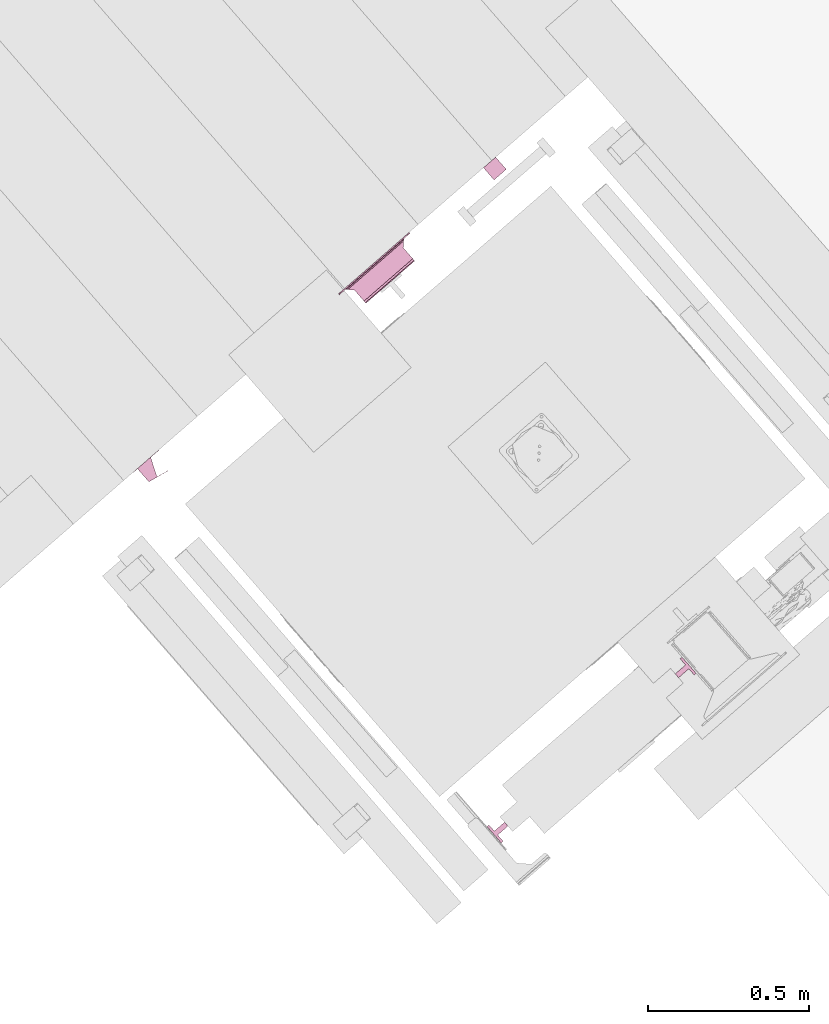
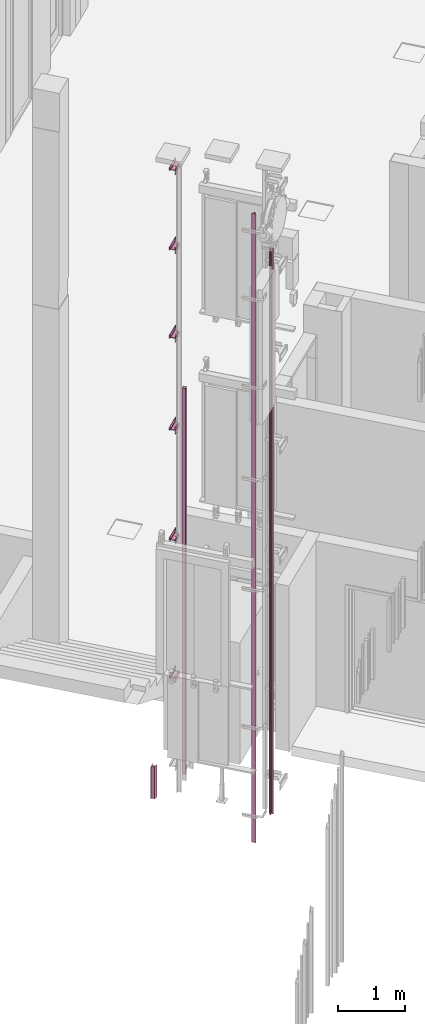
# One storey, part 118 of 124: 10 transport elements.
"""IFC2X3 building model written with IfcOpenShell, lengths in millimetres."""

from ifc_helpers import new_model, entity, si_unit, converted_unit, derived_unit, money_unit, direction, frame, origin_with_axes, place, context, subcontext, project, spatial, faceted_brep, source, transform, mapped, material, type_object, element, save


model = new_model("IFC2X3")

# Units and contexts
model_context = context("Model", 3, precision=1e-05, world=origin_with_axes(), true_north=direction((0.0, 1.0)))
body_context = subcontext(model_context, "Body", "Model", "MODEL_VIEW")
ifc_project = project(units=[si_unit("LENGTHUNIT", "METRE", prefix="MILLI"), si_unit("AREAUNIT", "SQUARE_METRE"), si_unit("VOLUMEUNIT", "CUBIC_METRE"), converted_unit("PLANEANGLEUNIT", "DEGREE", entity("IfcPlaneAngleMeasure", 0.0174532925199), si_unit("PLANEANGLEUNIT", "RADIAN"), dimensions=[0, 0, 0, 0, 0, 0, 0]), si_unit("SOLIDANGLEUNIT", "STERADIAN"), money_unit("EUR"), converted_unit("TIMEUNIT", "Year", entity("IfcTimeMeasure", 31556926.0), si_unit("TIMEUNIT", "SECOND"), dimensions=[0, 0, 1, 0, 0, 0, 0]), si_unit("MASSUNIT", "GRAM", prefix="KILO"), si_unit("THERMODYNAMICTEMPERATUREUNIT", "DEGREE_CELSIUS"), si_unit("LUMINOUSINTENSITYUNIT", "LUMEN"), si_unit("ENERGYUNIT", "JOULE", prefix="MEGA"), derived_unit("THERMALCONDUCTANCEUNIT", [(si_unit("POWERUNIT", "WATT"), 1), (si_unit("LENGTHUNIT", "METRE"), -1), (si_unit("THERMODYNAMICTEMPERATUREUNIT", "KELVIN"), -1)]), derived_unit("SPECIFICHEATCAPACITYUNIT", [(si_unit("ENERGYUNIT", "JOULE"), 1), (si_unit("MASSUNIT", "GRAM", prefix="KILO"), -1), (si_unit("THERMODYNAMICTEMPERATUREUNIT", "KELVIN"), -1)]), derived_unit("MASSDENSITYUNIT", [(si_unit("MASSUNIT", "GRAM", prefix="KILO"), 1), (si_unit("VOLUMEUNIT", "CUBIC_METRE"), -1)])], contexts=[model_context])

# Site, building, storey
site_placement = place(None, origin_with_axes())
site = spatial("IfcSite", under=ifc_project, at=site_placement, Name="Site", CompositionType="ELEMENT")
building_placement = place(site_placement, origin_with_axes())
building = spatial("IfcBuilding", under=site, at=building_placement, Name="Building", CompositionType="ELEMENT")
storey_placement = place(building_placement, frame((0.0, 0.0, -1615.0), z_axis=(0.0, 0.0, 1.0), x_axis=(1.0, 0.0, 0.0)))
storey = spatial("IfcBuildingStorey", under=building, at=storey_placement, Name="0  korrus", CompositionType="ELEMENT", Elevation=-1615.0)

# Transport elements
ifc_material_1 = material(Name="Site specified")
transport_element_type_1 = type_object("IfcTransportElementType", Name="KONE_Shaft_Light:KONE_Shaft_Light", PredefinedType="NOTDEFINED")
transport_element_1_placement = place(storey_placement, frame((145908.783007, 78452.6551463, -480.631399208), z_axis=(0.0, 0.0, 1.0), x_axis=(-0.754709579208, -0.656059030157, 0.0)))
element("IfcTransportElement", 1, at=transport_element_1_placement, inside=storey, type_object=transport_element_type_1, material=ifc_material_1, Name="KONE_Shaft_Light:KONE_Shaft_Light", ObjectType="KONE_Shaft_Light", CapacityByNumber=0.0, CapacityByWeight=0.0, OperationType="ELEVATOR", context=body_context, shape_type="Brep", body=[
    faceted_brep([(74.0915440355, 0.0, 160.631399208), (-33.9084559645, 0.0, 160.631399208), (-33.9084559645, 0.0, -419.368600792), (74.0915440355, 0.0, -419.368600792), (74.0915440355, 1.0, 160.631399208), (54.8915440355, 1.0, 160.631399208), (54.8915440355, 54.4210150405, 160.631399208), (-12.9084559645, 67.6, 160.631399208), (-13.0950953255, 66.6398237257, 160.631399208), (25.748988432, 59.0892987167, 160.631399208), (1.0915440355, 1.0, 160.631399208), (-33.9084559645, 1.0, 160.631399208), (-33.9084559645, 1.0, -419.368600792), (1.0915440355, 1.0, -419.368600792), (25.748988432, 59.0892987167, -419.368600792), (-13.0950953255, 66.6398237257, -419.368600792), (-12.9084559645, 67.6, -419.368600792), (54.8915440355, 54.4210150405, -419.368600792), (54.8915440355, 1.0, -419.368600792), (74.0915440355, 1.0, -419.368600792)], [[[0, 1, 2, 3]], [[0, 4, 5, 6, 7, 8, 9, 10, 11, 1]], [[1, 11, 12, 2]], [[3, 2, 12, 13, 14, 15, 16, 17, 18, 19]], [[4, 0, 3, 19]], [[5, 4, 19, 18]], [[6, 5, 18, 17]], [[7, 6, 17, 16]], [[8, 7, 16, 15]], [[9, 8, 15, 14]], [[10, 9, 14, 13]], [[11, 10, 13, 12]]]),
])
transport_element_type_2 = type_object("IfcTransportElementType", Name="KONE_Wire_Channel:KONE_Wire_Channel", PredefinedType="NOTDEFINED")
transport_element_2_placement = place(storey_placement, frame((146971.695445, 79310.3801852, 5600.0), z_axis=(0.0, 0.0, 1.0), x_axis=(0.754709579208, 0.656059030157, 0.0)))
element("IfcTransportElement", 2, at=transport_element_2_placement, inside=storey, type_object=transport_element_type_2, material=ifc_material_1, Name="KONE_Wire_Channel:KONE_Wire_Channel", ObjectType="KONE_Wire_Channel", CapacityByNumber=0.0, CapacityByWeight=0.0, OperationType="ELEVATOR", context=body_context, shape_type="Brep", body=[
    faceted_brep([(0.0, 0.0, -7000.0), (0.0, 0.0, 0.0), (0.0, 50.0, 0.0), (0.0, 50.0, -7000.0), (50.0, 0.0, -7000.0), (50.0, 0.0, 0.0), (50.0, 50.0, 0.0), (50.0, 50.0, -7000.0)], [[[0, 1, 2, 3]], [[0, 4, 5, 1]], [[1, 5, 6, 2]], [[3, 2, 6, 7]], [[4, 0, 3, 7]], [[5, 4, 7, 6]]]),
])
ifc_material_2 = material(Name="IFC Building Material")
transport_element_type_3 = type_object("IfcTransportElementType", Name="KONE_CWT_guiderail:KONE_CWT_guiderail", PredefinedType="NOTDEFINED")
transport_element_3_placement = place(storey_placement, frame((147575.469684, 77807.963243, -1400.0), z_axis=(0.0, 0.0, 1.0), x_axis=(-0.656059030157, 0.754709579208, 0.0)))
element("IfcTransportElement", 3, at=transport_element_3_placement, inside=storey, type_object=transport_element_type_3, material=ifc_material_2, Name="KONE_CWT_guiderail:KONE_CWT_guiderail", ObjectType="KONE_CWT_guiderail", CapacityByNumber=0.0, CapacityByWeight=0.0, OperationType="ELEVATOR", context=body_context, shape_type="Brep", body=[
    faceted_brep([(-7.94, 50.0, 10255.0), (7.94, 50.0, 10255.0), (7.94, 50.0, 0.0), (-7.94, 50.0, 0.0), (-7.94, 7.9, 10255.0), (-33.3333333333, 7.9, 10255.0), (-33.3333333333, 0.0, 10255.0), (33.3333333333, 0.0, 10255.0), (33.3333333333, 7.9, 10255.0), (7.94, 7.9, 10255.0), (7.94, 7.9, 0.0), (33.3333333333, 7.9, 0.0), (33.3333333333, 0.0, 0.0), (-33.3333333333, 0.0, 0.0), (-33.3333333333, 7.9, 0.0), (-7.94, 7.9, 0.0)], [[[0, 1, 2, 3]], [[0, 4, 5, 6, 7, 8, 9, 1]], [[1, 9, 10, 2]], [[3, 2, 10, 11, 12, 13, 14, 15]], [[4, 0, 3, 15]], [[5, 4, 15, 14]], [[6, 5, 14, 13]], [[7, 6, 13, 12]], [[8, 7, 12, 11]], [[9, 8, 11, 10]]]),
])
transport_element_type_4 = type_object("IfcTransportElementType", Name="KONE_CWT_guiderail:KONE_CWT_guiderail", PredefinedType="NOTDEFINED")
transport_element_4_placement = place(storey_placement, frame((146971.70202, 77283.1160189, -1400.0), z_axis=(0.0, 0.0, 1.0), x_axis=(0.656059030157, -0.754709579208, 0.0)))
element("IfcTransportElement", 4, at=transport_element_4_placement, inside=storey, type_object=transport_element_type_4, material=ifc_material_2, Name="KONE_CWT_guiderail:KONE_CWT_guiderail", ObjectType="KONE_CWT_guiderail", CapacityByNumber=0.0, CapacityByWeight=0.0, OperationType="ELEVATOR", context=body_context, shape_type="Brep", body=[
    faceted_brep([(-7.94, 50.0, 11400.0), (7.94, 50.0, 11400.0), (7.94, 50.0, 0.0), (-7.94, 50.0, 0.0), (-7.94, 7.9, 11400.0), (-33.3333333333, 7.9, 11400.0), (-33.3333333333, 0.0, 11400.0), (33.3333333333, 0.0, 11400.0), (33.3333333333, 7.9, 11400.0), (7.94, 7.9, 11400.0), (7.94, 7.9, 0.0), (33.3333333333, 7.9, 0.0), (33.3333333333, 0.0, 0.0), (-33.3333333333, 0.0, 0.0), (-33.3333333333, 7.9, 0.0), (-7.94, 7.9, 0.0)], [[[0, 1, 2, 3]], [[0, 4, 5, 6, 7, 8, 9, 1]], [[1, 9, 10, 2]], [[3, 2, 10, 11, 12, 13, 14, 15]], [[4, 0, 3, 15]], [[5, 4, 15, 14]], [[6, 5, 14, 13]], [[7, 6, 13, 12]], [[8, 7, 12, 11]], [[9, 8, 11, 10]]]),
])
transport_element_type_5 = type_object("IfcTransportElementType", Name="KONE_Car_Bracket_Top Most_KM927058G01_L50-80:KONE_Car_Bracket_Top Most_KM927058G01_L50-80", PredefinedType="NOTDEFINED")
shared_shape = source(origin_with_axes(), body_context, "Body", "Brep", [
    faceted_brep([(146.595272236, -5.59527223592, 7.52527223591), (146.595272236, -1.59527223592, 7.52527223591), (152.525272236, -1.59527223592, 1.59527223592), (152.525272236, -5.59527223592, 1.59527223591), (140.665272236, -5.59527223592, 1.59527223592), (140.665272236, -1.59527223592, 1.59527223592), (238.595272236, -1.59527223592, 1.59527223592), (54.5952722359, -1.59527223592, 1.59527223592), (48.9384179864, -1.59527223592, 3.93841798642), (46.5952722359, -1.59527223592, 9.59527223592), (46.5952722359, -1.59527223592, 72.5952722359), (94.2197036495, -1.59527223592, 72.5952722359), (141.844135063, -1.59527223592, 72.5952722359), (194.21970289, -1.59527223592, 72.5952722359), (246.595272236, -1.59527223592, 72.5952722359), (246.595272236, -1.59527223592, 9.59527223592), (244.252126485, -1.59527223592, 3.93841798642), (238.595272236, -5.59527223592, 1.59527223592), (54.5952722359, -5.59527223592, 1.59527223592), (244.252126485, -5.59527223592, 3.93841798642), (246.595272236, -5.59527223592, 9.59527223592), (246.595272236, -5.59527223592, 72.5952722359), (196.595272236, -5.59527223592, 72.5952722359), (171.595272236, -5.59527223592, 72.5952722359), (146.595272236, -5.59527223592, 72.5952722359), (96.5952722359, -5.59527223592, 72.5952722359), (46.5952722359, -5.59527223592, 72.5952722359), (46.5952722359, -5.59527223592, 9.59527223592), (48.9384179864, -5.59527223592, 3.93841798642), (46.5952722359, -7.05973832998, 76.1308061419), (46.5952722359, -10.5952722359, 77.5952722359), (46.5952722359, -43.5952722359, 77.5952722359), (46.5952722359, -43.5952722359, 81.5952722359), (46.5952722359, -10.5952722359, 81.5952722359), (46.5952722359, -4.23131120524, 78.9592332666), (122.783062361, -4.33272177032, 79.0590529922), (196.258388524, -4.23131116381, 78.9592332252), (246.595272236, -4.23131120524, 78.9592332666), (246.595272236, -10.5952722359, 81.5952722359), (246.595272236, -43.5952722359, 81.5952722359), (246.595272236, -43.5952722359, 77.5952722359), (246.595272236, -10.5952722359, 77.5952722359), (246.595272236, -7.05973832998, 76.1308061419), (196.595274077, -7.16817136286, 76.2360111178), (168.268825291, -7.34623169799, 76.3957637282), (108.562980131, -7.16462427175, 76.2326689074), (77.6407986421, -6.76068619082, 75.804002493), (85.6337155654, -10.5952722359, 77.5952722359), (124.672159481, -10.5952722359, 77.5952722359), (155.152937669, -10.5952722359, 77.5952722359), (185.633715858, -10.5952722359, 77.5952722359), (207.556828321, -10.5952722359, 77.5952722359), (244.252126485, -49.2521264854, 77.5952722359), (238.595272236, -51.5952722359, 77.5952722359), (152.735272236, -51.5952722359, 77.5952722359), (146.735272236, -45.5952722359, 77.5952722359), (140.735272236, -51.5952722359, 77.5952722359), (54.5952722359, -51.5952722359, 77.5952722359), (48.9384179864, -49.2521264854, 77.5952722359), (48.9384179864, -49.2521264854, 81.5952722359), (194.219703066, -10.5952722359, 81.5952722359), (146.595272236, -10.5952722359, 81.5952722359), (98.9708407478, -10.5952722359, 81.5952722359), (54.5952722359, -51.5952722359, 81.5952722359), (140.735272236, -51.5952722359, 81.5952722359), (146.735272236, -45.5952722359, 81.5952722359), (152.735272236, -51.5952722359, 81.5952722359), (238.595272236, -51.5952722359, 81.5952722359), (244.252126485, -49.2521264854, 81.5952722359), (139.912552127, -7.23042311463, 76.2936219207)], [[[0, 1, 2, 3]], [[4, 5, 1, 0]], [[6, 2, 1, 5, 7, 8, 9, 10, 11, 12, 13, 14, 15, 16]], [[3, 2, 6, 17]], [[18, 4, 0, 3, 17, 19, 20, 21, 22, 23, 24, 25, 26, 27, 28]], [[18, 7, 5, 4]], [[7, 18, 28, 8]], [[28, 27, 9, 8]], [[26, 29, 30, 31, 32, 33, 34, 10, 9, 27]], [[10, 34, 11]], [[35, 12, 11]], [[14, 13, 12, 36]], [[15, 14, 37, 38, 39, 40, 41, 42, 21, 20]], [[20, 19, 16, 15]], [[16, 19, 17, 6]], [[22, 21, 42]], [[23, 22, 43]], [[23, 44, 24]], [[25, 24, 45]], [[25, 46, 26]], [[46, 29, 26]], [[30, 29, 46]], [[31, 30, 47, 48, 49, 50, 51, 41, 40, 52, 53, 54, 55, 56, 57, 58]], [[31, 58, 59, 32]], [[39, 38, 60, 61, 62, 33, 32, 59, 63, 64, 65, 66, 67, 68]], [[34, 33, 62]], [[35, 11, 34]], [[12, 35, 36]], [[36, 37, 14]], [[38, 37, 36]], [[68, 52, 40, 39]], [[42, 41, 51]], [[22, 42, 43]], [[43, 44, 23]], [[69, 24, 44]], [[24, 69, 45]], [[25, 45, 46]], [[46, 47, 30]], [[45, 48, 47]], [[49, 48, 69]], [[49, 44, 50]], [[43, 51, 50]], [[53, 52, 68, 67]], [[66, 54, 53, 67]], [[65, 55, 54, 66]], [[55, 65, 64, 56]], [[63, 57, 56, 64]], [[59, 58, 57, 63]], [[60, 38, 36, 61]], [[35, 62, 61]], [[62, 35, 34]], [[61, 36, 35]], [[51, 43, 42]], [[50, 44, 43]], [[49, 69, 44]], [[48, 45, 69]], [[47, 46, 45]]]),
    faceted_brep([(193.031915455, -77.1650327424, 84.4439921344), (166.844136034, -79.5952722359, 90.5952722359), (115.281700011, -77.3075838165, 84.5998678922), (219.21970396, -79.5952722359, 90.5952722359), (120.407488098, -79.5952722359, 90.5952722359), (73.9708401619, -79.5952722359, 90.5952722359), (146.595272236, -70.5952722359, 81.5952722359), (266.596625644, -78.0785870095, 85.5952722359), (239.595272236, -79.5952722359, 113.598825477), (26.5913722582, -76.9592332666, 84.2313112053), (83.9681334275, -70.5952722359, 81.5952722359), (209.222411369, -70.5952722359, 81.5952722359), (266.596625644, -76.9592332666, 84.2313112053), (268.983493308, -79.2077583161, 87.9827861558), (271.595272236, -79.5952722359, 90.5952722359), (21.5952722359, -79.5952722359, 90.5952722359), (26.5913722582, -78.0785870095, 85.5952722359), (26.5913722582, -75.5952722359, 83.1119574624), (261.597979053, -70.5952722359, 81.5952722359), (31.5925654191, -70.5952722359, 81.5952722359), (46.5952722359, -55.5885033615, 81.5952722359), (46.5952722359, -24.5952722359, 81.5952722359), (48.9384179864, -18.9384179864, 81.5952722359), (54.5952722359, -16.5952722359, 81.5952722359), (81.588825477, -16.5952722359, 81.5952722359), (94.588825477, -29.5952722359, 81.5952722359), (198.601718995, -29.5952722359, 81.5952722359), (211.601718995, -16.5952722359, 81.5952722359), (238.595272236, -16.5952722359, 81.5952722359), (244.252126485, -18.9384179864, 81.5952722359), (246.595272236, -24.5952722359, 81.5952722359), (246.595272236, -55.5885033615, 81.5952722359), (266.596625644, -75.5952722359, 83.1119574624), (266.596625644, -75.5952722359, 85.5952722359), (271.595272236, -75.5952722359, 90.5952722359), (271.595272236, -79.5952722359, 113.598825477), (53.5952722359, -79.5952722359, 113.598825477), (24.2057778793, -79.2077583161, 87.9827861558), (26.5888256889, -75.5952722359, 85.5952722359), (264.209757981, -73.2077583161, 81.9827861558), (28.9795132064, -73.2077583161, 81.9827861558), (31.5925654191, -70.5952722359, 85.5952722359), (46.5952722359, -55.5885033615, 85.5952722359), (46.5952722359, -24.5952722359, 85.5952722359), (48.9384179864, -18.9384179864, 85.5952722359), (54.5952722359, -16.5952722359, 85.5952722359), (81.588825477, -16.5952722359, 85.5952722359), (94.588825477, -29.5952722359, 85.5952722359), (198.601718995, -29.5952722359, 85.5952722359), (211.601718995, -16.5952722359, 85.5952722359), (238.595272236, -16.5952722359, 85.5952722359), (244.252126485, -18.9384179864, 85.5952722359), (246.595272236, -24.5952722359, 85.5952722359), (246.595272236, -55.5885033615, 85.5952722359), (261.597979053, -70.5952722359, 85.5952722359), (265.132555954, -74.1308061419, 87.05973833), (266.596625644, -75.5952722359, 90.5952722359), (283.595272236, -75.5952722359, 90.5952722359), (283.595272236, -79.5952722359, 90.5952722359), (271.595272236, -75.5952722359, 113.598825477), (239.595272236, -75.5952722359, 113.598825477), (21.5952722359, -79.5952722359, 113.598825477), (233.533094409, -79.5952722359, 117.098825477), (21.5952722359, -75.5952722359, 90.5952722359), (68.5183858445, -70.5952722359, 85.5952722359), (105.44420598, -70.5952722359, 85.5952722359), (144.482649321, -70.5952722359, 85.5952722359), (183.521092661, -70.5952722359, 85.5952722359), (222.559536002, -70.5952722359, 85.5952722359), (227.558182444, -75.5952722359, 90.5952722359), (289.252126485, -75.5952722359, 92.9384179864), (289.252126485, -79.5952722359, 92.9384179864), (291.595272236, -79.5952722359, 98.5952722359), (277.657450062, -79.5952722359, 117.098825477), (277.657450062, -75.5952722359, 117.098825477), (233.533094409, -75.5952722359, 117.098825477), (9.59527223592, -79.5952722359, 90.595272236), (53.5952722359, -75.5952722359, 113.598825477), (21.5952722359, -75.5952722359, 113.598825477), (59.6574500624, -79.5952722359, 117.098825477), (9.59527223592, -75.5952722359, 90.595272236), (28.0579885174, -74.1308061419, 87.05973833), (76.1134774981, -74.1768855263, 87.1064262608), (130.371296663, -74.1224900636, 87.0514417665), (161.595438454, -74.0699729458, 86.9999342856), (217.077061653, -74.2010396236, 87.1313955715), (59.6574500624, -75.5952722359, 117.098825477), (291.595272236, -75.5952722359, 98.5952722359), (277.657450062, -79.5952722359, 124.098825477), (277.657450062, -75.5952722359, 124.098825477), (233.533094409, -79.5952722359, 124.098825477), (233.533094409, -75.5952722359, 124.098825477), (1.59527223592, -79.5952722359, 98.595272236), (26.5939188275, -75.5952722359, 90.5952722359), (15.5330944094, -79.5952722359, 117.098825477), (15.5330944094, -75.5952722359, 117.098825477), (3.93841798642, -75.5952722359, 92.9384179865), (3.93841798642, -79.5952722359, 92.9384179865), (103.281001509, -74.5050304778, 87.478576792), (189.264421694, -74.4223954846, 87.3776445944), (206.595949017, -75.5952722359, 90.5952722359), (291.595272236, -75.5952722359, 142.595272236), (291.595272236, -79.5952722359, 142.595272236), (271.595272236, -79.5952722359, 127.598825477), (271.595272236, -75.5952722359, 127.598825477), (239.595272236, -79.5952722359, 127.598825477), (239.595272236, -75.5952722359, 127.598825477), (59.6574500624, -79.5952722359, 124.098825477), (59.6574500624, -75.5952722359, 124.098825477), (1.59527223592, -75.5952722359, 98.595272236), (15.5330944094, -79.5952722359, 124.098825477), (15.5330944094, -75.5952722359, 124.098825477), (65.632362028, -75.5952722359, 90.5952722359), (86.5945954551, -75.5952722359, 90.5952722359), (146.595272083, -75.5952722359, 90.5952722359), (116.594933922, -75.5952722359, 90.5952722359), (176.59561055, -75.5952722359, 90.5952722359), (289.252126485, -75.5952722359, 148.252126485), (289.252126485, -79.5952722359, 148.252126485), (53.5952722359, -79.5952722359, 127.598825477), (1.59527223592, -79.5952722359, 142.595272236), (53.5952722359, -75.5952722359, 127.598825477), (1.59527223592, -75.5952722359, 142.595272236), (21.5952722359, -79.5952722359, 127.598825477), (21.5952722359, -75.5952722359, 127.598825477), (283.595272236, -75.5952722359, 150.595272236), (283.595272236, -79.5952722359, 150.595272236), (9.59527223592, -79.5952722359, 150.595272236), (3.93841798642, -75.5952722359, 148.252126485), (3.93841798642, -79.5952722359, 148.252126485), (9.59527223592, -75.5952722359, 150.595272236)], [[[0, 1, 2]], [[0, 3, 1]], [[4, 5, 2, 1]], [[0, 2, 6]], [[3, 0, 7]], [[8, 1, 3]], [[8, 5, 4]], [[2, 5, 9]], [[8, 4, 1]], [[10, 6, 2]], [[0, 6, 11]], [[0, 12, 7]], [[7, 13, 3]], [[8, 3, 14]], [[8, 15, 5]], [[5, 16, 9]], [[17, 2, 9]], [[18, 11, 6, 10, 19, 20, 21, 22, 23, 24, 25, 26, 27, 28, 29, 30, 31]], [[2, 17, 10]], [[0, 11, 32]], [[32, 12, 0]], [[33, 7, 12, 32]], [[34, 14, 13, 7, 33]], [[13, 14, 3]], [[14, 35, 8]], [[36, 15, 8]], [[5, 15, 37]], [[16, 5, 37]], [[38, 9, 16]], [[9, 38, 17]], [[11, 18, 39]], [[40, 19, 10]], [[20, 19, 41, 42]], [[20, 42, 43, 21]], [[21, 43, 44, 22]], [[44, 45, 23, 22]], [[23, 45, 46, 24]], [[46, 47, 25, 24]], [[25, 47, 48, 26]], [[48, 49, 27, 26]], [[27, 49, 50, 28]], [[28, 50, 51, 29]], [[51, 52, 30, 29]], [[30, 52, 53, 31]], [[33, 32, 39, 18, 31, 53, 54, 55, 56]], [[40, 10, 17]], [[32, 11, 39]], [[57, 58, 14, 34]], [[34, 33, 56]], [[35, 14, 58]], [[8, 35, 59, 60]], [[61, 15, 36]], [[8, 62, 36]], [[15, 63, 37]], [[16, 37, 38]], [[17, 38, 40]], [[19, 40, 41]], [[53, 52, 51, 50, 49, 48, 47, 46, 45, 44, 43, 42, 41, 64, 65, 66, 67, 68, 54]], [[68, 55, 54]], [[69, 56, 55]], [[58, 57, 70, 71]], [[57, 34, 59]], [[56, 59, 34]], [[58, 72, 35]], [[35, 73, 74, 59]], [[60, 59, 56]], [[62, 8, 60, 75]], [[15, 61, 76]], [[61, 36, 77, 78]], [[36, 62, 79]], [[15, 76, 80, 63]], [[37, 63, 38]], [[81, 40, 38]], [[41, 40, 81]], [[41, 81, 64]], [[64, 82, 65]], [[83, 66, 65]], [[84, 67, 66]], [[85, 68, 67]], [[68, 85, 55]], [[86, 56, 69]], [[85, 69, 55]], [[57, 87, 70]], [[70, 87, 72, 71]], [[58, 71, 72]], [[87, 57, 59]], [[72, 73, 35]], [[73, 88, 89, 74]], [[59, 74, 87]], [[56, 75, 60]], [[90, 62, 75, 91]], [[92, 76, 61]], [[36, 79, 86, 77]], [[78, 77, 93]], [[94, 61, 78, 95]], [[90, 79, 62]], [[96, 80, 76, 97]], [[78, 63, 80]], [[63, 93, 38]], [[38, 93, 81]], [[81, 82, 64]], [[82, 98, 65]], [[66, 83, 84]], [[65, 98, 83]], [[84, 99, 67]], [[85, 67, 99]], [[56, 86, 75]], [[86, 69, 100]], [[100, 69, 85]], [[101, 102, 72, 87]], [[73, 72, 102]], [[102, 88, 73]], [[88, 103, 104, 89]], [[89, 101, 74]], [[87, 74, 101]], [[91, 75, 86]], [[105, 90, 91, 106]], [[97, 76, 92]], [[92, 61, 94]], [[79, 107, 108, 86]], [[77, 86, 93]], [[93, 63, 78]], [[109, 95, 78]], [[110, 94, 95, 111]], [[107, 79, 90]], [[80, 96, 109]], [[92, 109, 96, 97]], [[80, 109, 78]], [[81, 93, 112]], [[112, 82, 81]], [[113, 98, 82]], [[84, 83, 114]], [[115, 83, 98]], [[99, 84, 116]], [[85, 99, 100]], [[86, 100, 116]], [[102, 101, 117, 118]], [[103, 88, 102]], [[104, 103, 105, 106]], [[89, 104, 101]], [[86, 108, 91]], [[105, 119, 90]], [[106, 91, 108]], [[92, 94, 120]], [[107, 119, 121, 108]], [[86, 112, 93]], [[95, 109, 122]], [[110, 120, 94]], [[122, 111, 95]], [[123, 110, 111, 124]], [[119, 107, 90]], [[92, 120, 122, 109]], [[113, 82, 112]], [[115, 98, 113]], [[114, 83, 115]], [[114, 116, 84]], [[100, 99, 116]], [[86, 116, 114]], [[125, 117, 101]], [[117, 125, 126, 118]], [[102, 118, 126]], [[102, 126, 103]], [[105, 103, 126]], [[104, 106, 125]], [[101, 104, 125]], [[119, 105, 127]], [[121, 106, 108]], [[119, 123, 124, 121]], [[86, 113, 112]], [[110, 123, 120]], [[124, 111, 122]], [[128, 122, 120, 129]], [[86, 115, 113]], [[86, 114, 115]], [[130, 127, 126, 125]], [[126, 127, 105]], [[106, 121, 125]], [[123, 119, 127]], [[121, 124, 130]], [[120, 123, 127]], [[122, 130, 124]], [[128, 130, 122]], [[127, 129, 120]], [[127, 130, 128, 129]], [[130, 125, 121]]]),
])
transport_element_5_placement = place(storey_placement, frame((146762.129236, 79088.9929383, 629.807512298), z_axis=(0.0, 0.0, 1.0), x_axis=(-0.754709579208, -0.656059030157, 0.0)))
element("IfcTransportElement", 5, at=transport_element_5_placement, inside=storey, type_object=transport_element_type_5, Name="KONE_Car_Bracket_Top Most_KM927058G01_L50-80:KONE_Car_Bracket_Top Most_KM927058G01_L50-80", ObjectType="KONE_Car_Bracket_Top Most_KM927058G01_L50-80", CapacityByNumber=0.0, CapacityByWeight=0.0, OperationType="ELEVATOR", context=body_context, shape_type="MappedRepresentation", body=[
    mapped(shared_shape, transform((0.0, 0.0, 0.0))),
])
transport_element_type_6 = type_object("IfcTransportElementType", Name="KONE_Car_Bracket_Top Most_KM927058G01_L50-80:KONE_Car_Bracket_Top Most_KM927058G01_L50-80", PredefinedType="NOTDEFINED")
transport_element_6_placement = place(storey_placement, frame((146762.129236, 79088.9929383, 3129.8075923), z_axis=(0.0, 0.0, 1.0), x_axis=(-0.754709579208, -0.656059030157, 0.0)))
element("IfcTransportElement", 6, at=transport_element_6_placement, inside=storey, type_object=transport_element_type_6, Name="KONE_Car_Bracket_Top Most_KM927058G01_L50-80:KONE_Car_Bracket_Top Most_KM927058G01_L50-80", ObjectType="KONE_Car_Bracket_Top Most_KM927058G01_L50-80", CapacityByNumber=0.0, CapacityByWeight=0.0, OperationType="ELEVATOR", context=body_context, shape_type="MappedRepresentation", body=[
    mapped(shared_shape, transform((0.0, 0.0, 0.0))),
])
transport_element_type_7 = type_object("IfcTransportElementType", Name="KONE_Car_Bracket_Top Most_KM927058G01_L50-80:KONE_Car_Bracket_Top Most_KM927058G01_L50-80", PredefinedType="NOTDEFINED")
transport_element_7_placement = place(storey_placement, frame((146762.129236, 79088.9929383, 5129.8076563), z_axis=(0.0, 0.0, 1.0), x_axis=(-0.754709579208, -0.656059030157, 0.0)))
element("IfcTransportElement", 7, at=transport_element_7_placement, inside=storey, type_object=transport_element_type_7, Name="KONE_Car_Bracket_Top Most_KM927058G01_L50-80:KONE_Car_Bracket_Top Most_KM927058G01_L50-80", ObjectType="KONE_Car_Bracket_Top Most_KM927058G01_L50-80", CapacityByNumber=0.0, CapacityByWeight=0.0, OperationType="ELEVATOR", context=body_context, shape_type="MappedRepresentation", body=[
    mapped(shared_shape, transform((0.0, 0.0, 0.0))),
])
transport_element_type_8 = type_object("IfcTransportElementType", Name="KONE_Car_Bracket_Top Most_KM927058G01_L50-80:KONE_Car_Bracket_Top Most_KM927058G01_L50-80", PredefinedType="NOTDEFINED")
transport_element_8_placement = place(storey_placement, frame((146762.129236, 79088.9929383, 6799.80770974), z_axis=(0.0, 0.0, 1.0), x_axis=(-0.754709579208, -0.656059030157, 0.0)))
element("IfcTransportElement", 8, at=transport_element_8_placement, inside=storey, type_object=transport_element_type_8, Name="KONE_Car_Bracket_Top Most_KM927058G01_L50-80:KONE_Car_Bracket_Top Most_KM927058G01_L50-80", ObjectType="KONE_Car_Bracket_Top Most_KM927058G01_L50-80", CapacityByNumber=0.0, CapacityByWeight=0.0, OperationType="ELEVATOR", context=body_context, shape_type="MappedRepresentation", body=[
    mapped(shared_shape, transform((0.0, 0.0, 0.0))),
])
transport_element_type_9 = type_object("IfcTransportElementType", Name="KONE_Car_Bracket_Top Most_KM927058G01_L50-80:KONE_Car_Bracket_Top Most_KM927058G01_L50-80", PredefinedType="NOTDEFINED")
transport_element_9_placement = place(storey_placement, frame((146762.129236, 79088.9929383, 9839.80780702), z_axis=(0.0, 0.0, 1.0), x_axis=(-0.754709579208, -0.656059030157, 0.0)))
element("IfcTransportElement", 9, at=transport_element_9_placement, inside=storey, type_object=transport_element_type_9, Name="KONE_Car_Bracket_Top Most_KM927058G01_L50-80:KONE_Car_Bracket_Top Most_KM927058G01_L50-80", ObjectType="KONE_Car_Bracket_Top Most_KM927058G01_L50-80", CapacityByNumber=0.0, CapacityByWeight=0.0, OperationType="ELEVATOR", context=body_context, shape_type="MappedRepresentation", body=[
    mapped(shared_shape, transform((0.0, 0.0, 0.0))),
])
transport_element_type_10 = type_object("IfcTransportElementType", Name="KONE_Car_Bracket_Top Most_KM927058G01_L50-80:KONE_Car_Bracket_Top Most_KM927058G01_L50-80", PredefinedType="NOTDEFINED")
transport_element_10_placement = place(storey_placement, frame((146762.129236, 79088.9929383, 8399.80776094), z_axis=(0.0, 0.0, 1.0), x_axis=(-0.754709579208, -0.656059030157, 0.0)))
element("IfcTransportElement", 10, at=transport_element_10_placement, inside=storey, type_object=transport_element_type_10, Name="KONE_Car_Bracket_Top Most_KM927058G01_L50-80:KONE_Car_Bracket_Top Most_KM927058G01_L50-80", ObjectType="KONE_Car_Bracket_Top Most_KM927058G01_L50-80", CapacityByNumber=0.0, CapacityByWeight=0.0, OperationType="ELEVATOR", context=body_context, shape_type="MappedRepresentation", body=[
    mapped(shared_shape, transform((0.0, 0.0, 0.0))),
])

save(model, "model.ifc")
